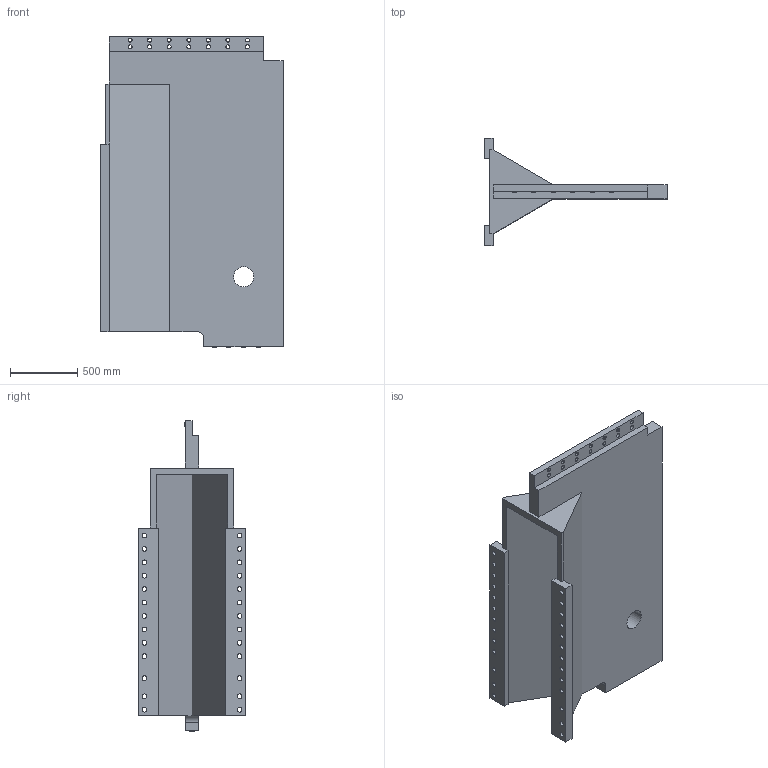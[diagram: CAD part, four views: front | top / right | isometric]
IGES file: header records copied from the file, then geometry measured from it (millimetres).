
Start section:  PTC IGES file: upper_gusset.igs
Global section: file name: upper_gusset.igs; native system: Pro/ENGINEER by Parametric Technology Corporation; preprocessor: 1999260; author: oshatz; organization: Unknown; date: 000922.101549; units: millimetre
Bounding box: 1366.36 x 800.5 x 2316.26 mm (x, y, z)
Surface area: 10475812.2 mm2 (no closed solid volume)
Topology: 0 solids, 0 shells, 350 faces, 2160 edges, 2360 vertices
Faces by surface type: revolution 247, bspline 103
